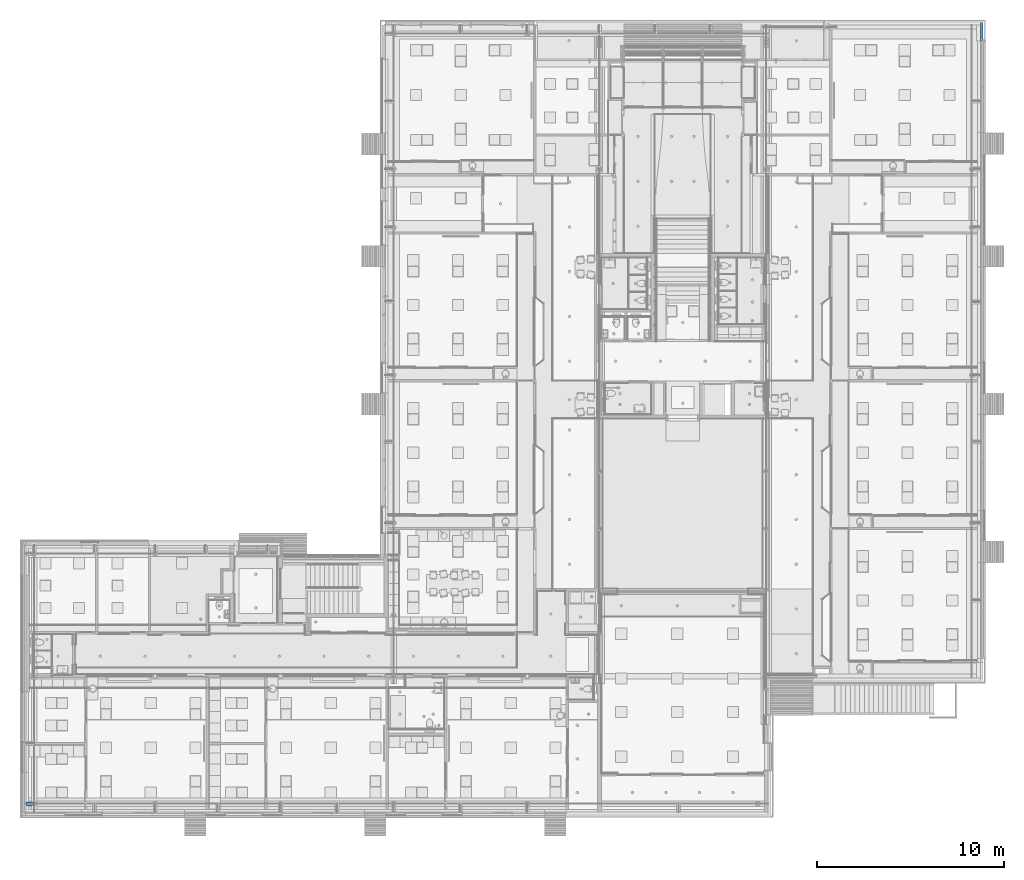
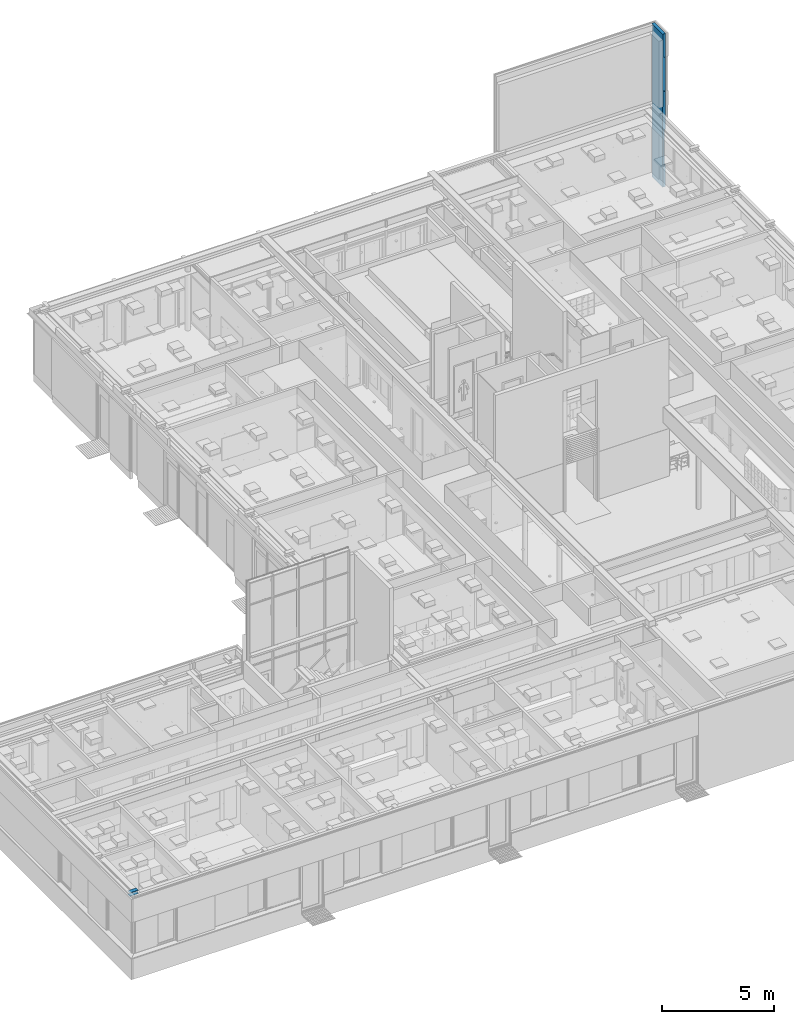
# One storey, part 126 of 347: 3 building element parts, 2 openings, 2 elements without a shape of their own.
"""IFC2X3 building model written with IfcOpenShell, lengths in millimetres."""

from ifc_helpers import new_model, entity, si_unit, converted_unit, derived_unit, money_unit, direction, frame, origin_with_axes, place, context, subcontext, project, spatial, faceted_brep, material, type_object, element, aggregate, save


model = new_model("IFC2X3")

# Units and contexts
model_context = context("Model", 3, precision=0.01, world=origin_with_axes(), true_north=direction((0.0, 1.0)))
plan_context = context("Plan", 3, precision=0.01, world=origin_with_axes(), true_north=direction((0.0, 1.0)))
body_context = subcontext(model_context, "Body", "Model", "MODEL_VIEW")
ifc_project = project(units=[si_unit("LENGTHUNIT", "METRE", prefix="MILLI"), si_unit("AREAUNIT", "SQUARE_METRE"), si_unit("VOLUMEUNIT", "CUBIC_METRE"), converted_unit("PLANEANGLEUNIT", "DEGREE", entity("IfcPlaneAngleMeasure", 0.0174532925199), si_unit("PLANEANGLEUNIT", "RADIAN"), dimensions=[0, 0, 0, 0, 0, 0, 0]), money_unit("EUR"), converted_unit("TIMEUNIT", "Year", entity("IfcTimeMeasure", 31556926.0), si_unit("TIMEUNIT", "SECOND"), dimensions=[0, 0, 1, 0, 0, 0, 0]), si_unit("MASSUNIT", "GRAM", prefix="KILO"), si_unit("THERMODYNAMICTEMPERATUREUNIT", "DEGREE_CELSIUS"), si_unit("LUMINOUSINTENSITYUNIT", "LUMEN"), si_unit("ENERGYUNIT", "JOULE", prefix="MEGA"), derived_unit("THERMALCONDUCTANCEUNIT", [(si_unit("POWERUNIT", "WATT"), 1), (si_unit("LENGTHUNIT", "METRE"), -1), (si_unit("THERMODYNAMICTEMPERATUREUNIT", "KELVIN"), -1)]), derived_unit("SPECIFICHEATCAPACITYUNIT", [(si_unit("ENERGYUNIT", "JOULE"), 1), (si_unit("MASSUNIT", "GRAM", prefix="KILO"), -1), (si_unit("THERMODYNAMICTEMPERATUREUNIT", "KELVIN"), -1)]), derived_unit("MASSDENSITYUNIT", [(si_unit("MASSUNIT", "GRAM", prefix="KILO"), 1), (si_unit("VOLUMEUNIT", "CUBIC_METRE"), -1)])], contexts=[model_context, plan_context])

# Site, building, storey
site_placement = place(None, origin_with_axes())
site = spatial("IfcSite", under=ifc_project, at=site_placement, Name="Site", CompositionType="ELEMENT")
building_placement = place(site_placement, origin_with_axes())
building = spatial("IfcBuilding", under=site, at=building_placement, Name="Naam gebouw", CompositionType="ELEMENT")
storey_placement = place(building_placement, origin_with_axes())
storey = spatial("IfcBuildingStorey", under=building, at=storey_placement, Name="begane grond", CompositionType="ELEMENT", Elevation=0.0)

# Wall, openings, building element part
wall_type = type_object("IfcWallType", Name="22 beg mets + verd (beton) 490 x 8410", PredefinedType="NOTDEFINED")
wall_placement = place(storey_placement, frame((55875.0000544, 46187.0000219, 0.0), z_axis=(0.0, 0.0, 1.0), x_axis=(-4.81021083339e-08, 1.0, 0.0)))
wall = element("IfcWall", 1, at=wall_placement, inside=storey, type_object=wall_type, Name="21_21 betonwand")
opening_1_placement = place(wall_placement, frame((-211.500010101, 0.0, 720.0), z_axis=(0.0, 0.0, 1.0), x_axis=(1.0, 0.0, 0.0)))
element("IfcOpeningElement", 2, at=opening_1_placement, cuts=wall, Name="31_-", context=body_context, shape_type="Brep", body=[
    faceted_brep([(211.500026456, 550.000026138, 0.0), (211.500026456, 550.000026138, 1885.00000002), (211.499992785, -150.00008173, 1885.00000002), (211.499992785, -150.00008173, 0.0), (-221.499973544, 550.000046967, 0.0), (-221.499973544, 550.000046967, 1885.00000002), (-221.500007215, -150.000060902, 1885.00000002), (-221.500007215, -150.000060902, 0.0)], [[[0, 1, 2, 3]], [[0, 4, 5, 1]], [[1, 5, 6, 2]], [[3, 2, 6, 7]], [[4, 0, 3, 7]], [[5, 4, 7, 6]]]),
    faceted_brep([(231.499955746, -920.000136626, 1885.00000002), (231.499955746, -920.000136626, -70.0), (231.499989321, -222.000082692, -70.0), (231.499989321, -222.000082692, 1885.00000002), (-221.500044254, -920.000114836, 1885.00000002), (-221.500044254, -920.000114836, -70.0), (-221.500010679, -222.000060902, -70.0), (-221.500010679, -222.000060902, 1885.00000002)], [[[0, 1, 2, 3]], [[0, 4, 5, 1]], [[1, 5, 6, 2]], [[3, 2, 6, 7]], [[4, 0, 3, 7]], [[5, 4, 7, 6]]]),
    faceted_brep([(221.499989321, -222.000082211, 1885.00000002), (221.499989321, -222.000082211, 0.0), (221.499992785, -150.000082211, 0.0), (221.499992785, -150.000082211, 1885.00000002), (-221.500010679, -222.000060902, 1885.00000002), (-221.500010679, -222.000060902, 0.0), (-221.500007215, -150.000060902, 0.0), (-221.500007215, -150.000060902, 1885.00000002)], [[[0, 1, 2, 3]], [[0, 4, 5, 1]], [[1, 5, 6, 2]], [[3, 2, 6, 7]], [[4, 0, 3, 7]], [[5, 4, 7, 6]]]),
])
opening_2_placement = place(wall_placement, frame((-211.5, 0.0, 4760.0), z_axis=(0.0, 0.0, 1.0), x_axis=(1.0, 0.0, 0.0)))
element("IfcOpeningElement", 3, at=opening_2_placement, cuts=wall, Name="31_-", context=body_context, shape_type="Brep", body=[
    faceted_brep([(211.500026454, 549.960731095, 0.0), (211.500026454, 549.960731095, 1805.0), (211.499992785, -150.00008173, 1805.0), (211.499992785, -150.00008173, 0.0), (-221.499973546, 549.960751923, 0.0), (-221.499973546, 549.960751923, 1805.0), (-221.500007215, -150.000060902, 1805.0), (-221.500007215, -150.000060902, 0.0)], [[[0, 1, 2, 3]], [[0, 4, 5, 1]], [[1, 5, 6, 2]], [[3, 2, 6, 7]], [[4, 0, 3, 7]], [[5, 4, 7, 6]]]),
    faceted_brep([(231.499955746, -920.000136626, 1805.0), (231.499955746, -920.000136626, -70.0), (231.499989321, -222.000082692, -70.0), (231.499989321, -222.000082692, 1805.0), (-221.500044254, -920.000114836, 1805.0), (-221.500044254, -920.000114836, -70.0), (-221.500010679, -222.000060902, -70.0), (-221.500010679, -222.000060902, 1805.0)], [[[0, 1, 2, 3]], [[0, 4, 5, 1]], [[1, 5, 6, 2]], [[3, 2, 6, 7]], [[4, 0, 3, 7]], [[5, 4, 7, 6]]]),
    faceted_brep([(221.499989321, -222.000082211, 1805.0), (221.499989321, -222.000082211, 0.0), (221.499992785, -150.000082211, 0.0), (221.499992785, -150.000082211, 1805.0), (-221.500010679, -222.000060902, 1805.0), (-221.500010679, -222.000060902, 0.0), (-221.500007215, -150.000060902, 0.0), (-221.500007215, -150.000060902, 1805.0)], [[[0, 1, 2, 3]], [[0, 4, 5, 1]], [[1, 5, 6, 2]], [[3, 2, 6, 7]], [[4, 0, 3, 7]], [[5, 4, 7, 6]]]),
])
ifc_material_1 = material(Name="Isolatie - Kunststof hard")
building_element_part_1_placement = place(wall_placement, origin_with_axes())
building_element_part_1 = element("IfcBuildingElementPart", 4, at=building_element_part_1_placement, material=ifc_material_1, Name="Isolatie - Kunststof hard", context=body_context, shape_type="Brep", body=[
    faceted_brep([(989.999945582, -149.999978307, 7840.0), (989.999938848, -289.999978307, 7840.0), (989.999937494, -290.000047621, -510.0), (989.999944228, -150.000047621, -510.0), (989.999944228, -150.000058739, 3559.99999902), (989.999944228, -150.000058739, 3880.00000942), (989.999944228, -150.000058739, 7519.99997098), (-1.39496094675e-05, -289.999930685, 7840.0), (-7.21531279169e-06, -149.999930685, 7840.0), (-1.39496094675e-05, -289.999990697, 6565.0), (19.9999860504, -289.999972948, 6565.0), (19.9999860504, -289.999972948, 4690.0), (-1.39496094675e-05, -289.999977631, 4690.0), (-1.39496094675e-05, -289.999971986, 3879.99997228), (9.99998300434, -289.999972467, 3879.99997228), (9.99997597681, -289.999979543, 2605.00000002), (19.9999759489, -290.000000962, 2605.00000002), (19.9999966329, -290.000000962, 2600.0), (89.9999966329, -290.000004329, 2600.0), (89.9999966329, -290.000004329, 698.236730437), (19.9999966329, -290.000000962, 698.236730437), (19.9999759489, -290.000000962, 650.0), (-1.39496094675e-05, -289.999992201, 650.0), (-1.39496094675e-05, -290.0, -510.0), (-7.21531989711e-06, -150.0, -510.0), (-7.21531989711e-06, -150.00008173, 720.0), (9.99998268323, -150.000082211, 720.0), (9.99998268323, -150.000082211, 2599.99997855), (9.99998973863, -150.000008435, 3560.0), (9.99998973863, -150.000008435, 3879.99997228), (-7.21531989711e-06, -150.000007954, 3879.99997228), (-7.21531989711e-06, -150.00008173, 4760.0), (9.99999278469, -150.000082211, 4760.0), (9.99999278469, -150.000082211, 6565.0), (-7.21531989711e-06, -150.00008173, 6565.0), (-7.21531989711e-06, -150.000011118, 7519.99997098), (-1.06786757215e-05, -222.00008173, 6565.0), (19.9999893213, -222.000082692, 6565.0), (9.99998932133, -222.000082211, 6565.0), (19.9999893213, -222.000082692, 4690.0), (-1.06786757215e-05, -222.00008173, 4690.0), (-1.06786757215e-05, -222.00008173, 4760.0), (9.99997921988, -222.000082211, 2599.99997855), (9.99997922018, -222.000082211, 2605.00000002), (19.9999792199, -222.000082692, 2605.00000002), (19.9999999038, -221.99993302, 2600.0), (89.9999999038, -221.999936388, 2600.0), (89.9999999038, -221.999936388, 698.236730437), (19.9999999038, -221.99993302, 698.236730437), (19.9999792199, -222.000082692, 650.0), (-1.06786757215e-05, -222.00008173, 650.0), (-1.06786757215e-05, -222.00008173, 720.0), (9.99997921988, -222.000082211, 720.0), (9.99998932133, -222.000082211, 4760.0)], [[[0, 1, 2, 3, 4, 5, 6]], [[7, 1, 0, 8]], [[1, 7, 9, 10, 11, 12, 13, 14, 15, 16, 17, 18, 19, 20, 21, 22, 23, 2]], [[3, 2, 23, 24]], [[24, 25, 26, 27, 28, 4, 3]], [[28, 29, 5, 4]], [[30, 31, 32, 33, 34, 35, 6, 5, 29]], [[8, 0, 6, 35]], [[7, 8, 35, 34, 36, 9]], [[37, 10, 9, 36, 38]], [[37, 39, 11, 10]], [[39, 40, 12, 11]], [[13, 12, 40, 41, 31, 30]], [[14, 13, 30, 29]], [[29, 28, 27, 42, 43, 15, 14]], [[16, 15, 43, 44]], [[16, 44, 45, 17]], [[45, 46, 18, 17]], [[46, 47, 19, 18]], [[47, 48, 20, 19]], [[49, 21, 20, 48]], [[22, 21, 49, 50]], [[23, 22, 50, 51, 25, 24]], [[25, 51, 52, 26]], [[26, 52, 42, 27]], [[53, 32, 31, 41]], [[38, 33, 32, 53]], [[36, 34, 33, 38]], [[39, 37, 38, 53, 41, 40]], [[50, 49, 48, 45, 44, 43, 42, 52, 51]], [[47, 46, 45, 48]]]),
])
aggregate(wall, [building_element_part_1])

# Beam, building element parts
beam_type = type_object("IfcBeamType", Name="28 HEB200 200 x 200", PredefinedType="BEAM")
beam_placement = place(storey_placement, frame((5300.0, 5300.0, 3560.0), z_axis=(0.0, 0.0, 1.0), x_axis=(-2.18705054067e-10, 1.0, 0.0)))
beam = element("IfcBeam", 5, at=beam_placement, inside=storey, type_object=beam_type, Name="28_Balk-x", ObjectType="BEAM")
ifc_material_2 = material(Name="Metaal - Staal C")
building_element_part_2_placement = place(beam_placement, origin_with_axes())
building_element_part_2 = element("IfcBuildingElementPart", 6, at=building_element_part_2_placement, material=ifc_material_2, Name="Metaal - Staal C", context=body_context, shape_type="Brep", body=[
    faceted_brep([(-100.0, 450.0, 185.0), (-4.5, 450.0, 185.0), (-4.5, 0.0, 185.0), (-100.0, 0.0, 185.0), (-100.0, 450.0, 200.0), (100.0, 450.0, 200.0), (100.0, 450.0, 185.0), (4.5, 450.0, 185.0), (4.5, 0.0, 185.0), (100.0, 0.0, 185.0), (100.0, 0.0, 200.0), (-100.0, 0.0, 200.0)], [[[0, 1, 2, 3]], [[0, 4, 5, 6, 7, 1]], [[1, 7, 8, 2]], [[3, 2, 8, 9, 10, 11]], [[4, 0, 3, 11]], [[5, 4, 11, 10]], [[6, 5, 10, 9]], [[7, 6, 9, 8]]]),
])
building_element_part_3_placement = place(beam_placement, origin_with_axes())
building_element_part_3 = element("IfcBuildingElementPart", 7, at=building_element_part_3_placement, material=ifc_material_2, Name="Metaal - Staal C", context=body_context, shape_type="Brep", body=[
    faceted_brep([(-100.0, 450.0, 15.0), (-100.0, 450.0, 0.0), (-100.0, 0.0, 0.0), (-100.0, 0.0, 15.0), (-4.5, 450.0, 15.0), (4.5, 450.0, 15.0), (100.0, 450.0, 15.0), (100.0, 450.0, 0.0), (100.0, 0.0, 0.0), (100.0, 0.0, 15.0), (4.5, 0.0, 15.0), (-4.5, 0.0, 15.0)], [[[0, 1, 2, 3]], [[0, 4, 5, 6, 7, 1]], [[1, 7, 8, 2]], [[3, 2, 8, 9, 10, 11]], [[4, 0, 3, 11]], [[5, 4, 11, 10]], [[6, 5, 10, 9]], [[7, 6, 9, 8]]]),
])
aggregate(beam, [building_element_part_2, building_element_part_3])

save(model, "model.ifc")
